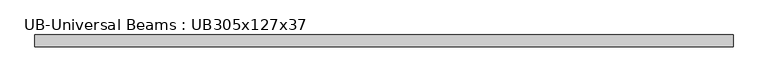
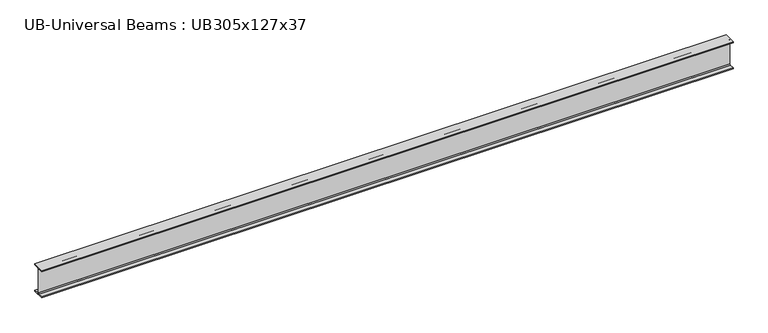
"""IFC4 building model written with IfcOpenShell, lengths in millimetres: beam geometry, UB-Universal Beams : UB305x127x37."""

import ifcopenshell
import ifcopenshell.guid

model = None  # the IFC model being written
_history = None  # IfcOwnerHistory: only IFC2X3 demands one
_inside = {}  # id of a spatial element -> (the spatial element, [elements in it])
_under = {}  # id of a project, library or spatial element -> (it, [spatial elements below it])
_declared = {}  # id of a project -> (the project, [libraries it declares])
_typed = {}  # id of a type object -> (the type object, [elements of that type])
_made_of = {}  # id of a material, layer set ... -> (it, [elements and type objects made of it])


def new_model(schema):
    """Start an empty IFC model of exactly this schema.

    Asked for "IFC4X3", IfcOpenShell would pick the latest addendum, in which some entities
    have other attributes; the version numbers below select the first issue.
    IFC2X3 requires an IfcOwnerHistory on every rooted entity: one is made here for all.
    """
    global model, _history
    if schema == "IFC4X3":
        model = ifcopenshell.file(schema_version=(4, 3, 0, 0))
    else:
        model = ifcopenshell.file(schema=schema)
    _inside.clear()
    _under.clear()
    _declared.clear()
    _typed.clear()
    _made_of.clear()
    _history = None
    if model.schema == "IFC2X3":
        org = make("IfcOrganization", Name="unknown")
        user = make(
            "IfcPersonAndOrganization",
            ThePerson=make("IfcPerson", FamilyName="unknown"),
            TheOrganization=org,
        )
        app = make(
            "IfcApplication",
            ApplicationDeveloper=org,
            Version="unknown",
            ApplicationFullName="unknown",
            ApplicationIdentifier="unknown",
        )
        _history = make(
            "IfcOwnerHistory",
            OwningUser=user,
            OwningApplication=app,
            ChangeAction="ADDED",
            CreationDate=0,
        )
    return model


def make(cls, **values):
    """One entity of the class cls with the attributes given. An attribute that is None is left unset."""
    return model.create_entity(
        cls, **{name: value for name, value in values.items() if value is not None}
    )


def rooted(cls, **values):
    """An entity with a GlobalId (a new one), such as an element, a storey or a relation."""
    return make(cls, GlobalId=ifcopenshell.guid.new(), OwnerHistory=_history, **values)


def si_unit(unit_type, name, prefix=None):
    """IfcSIUnit, for example si_unit("LENGTHUNIT", "METRE", prefix="MILLI")."""
    return make("IfcSIUnit", UnitType=unit_type, Prefix=prefix, Name=name)


def assignment(units):
    """IfcUnitAssignment: the units of a project."""
    return None if units is None else make("IfcUnitAssignment", Units=units)


def point(xyz):
    """IfcCartesianPoint."""
    return None if xyz is None else make("IfcCartesianPoint", Coordinates=xyz)


def direction(xyz):
    """IfcDirection."""
    return None if xyz is None else make("IfcDirection", DirectionRatios=xyz)


def frame(location, z_axis=None, x_axis=None):
    """IfcAxis2Placement3D, a coordinate frame: its origin and axes. An axis left out is left unset."""
    return make(
        "IfcAxis2Placement3D",
        Location=point(location),
        Axis=direction(z_axis),
        RefDirection=direction(x_axis),
    )


def frame_2d(location, x_axis=None):
    """IfcAxis2Placement2D, a coordinate frame in the plane: its origin and x axis."""
    return make(
        "IfcAxis2Placement2D", Location=point(location), RefDirection=direction(x_axis)
    )


def origin():
    """The frame at (0, 0, 0) with its axes left unset."""
    return frame((0.0, 0.0, 0.0))


def place(relative_to, where):
    """IfcLocalPlacement: puts the frame where relative to a parent placement (None: the world)."""
    return make(
        "IfcLocalPlacement", PlacementRelTo=relative_to, RelativePlacement=where
    )


def context(
    kind, dimensions, precision=None, world=None, true_north=None, identifier=None
):
    """IfcGeometricRepresentationContext, for example the 3D "Model" context."""
    return make(
        "IfcGeometricRepresentationContext",
        ContextIdentifier=identifier,
        ContextType=kind,
        CoordinateSpaceDimension=dimensions,
        Precision=precision,
        WorldCoordinateSystem=world,
        TrueNorth=true_north,
    )


def project(units=None, contexts=None):
    """IfcProject with its units and contexts."""
    return rooted(
        "IfcProject",
        Name="project",
        RepresentationContexts=contexts,
        UnitsInContext=assignment(units),
    )


def spatial(cls, under=None, at=None, **own):
    """A site, building, storey or space (cls), placed at a placement, below another one or the project."""
    s = rooted(cls, ObjectPlacement=at, **own)
    if under is not None:
        _under.setdefault(under.id(), (under, []))[1].append(s)
    return s


def polyline(points):
    """IfcPolyline through the points."""
    return make("IfcPolyline", Points=[point(p) for p in points])


def circle_curve(where, radius):
    """IfcCircle in the frame where."""
    return make("IfcCircle", Position=where, Radius=radius)


def trimmed(basis, trim1, trim2, sense, master):
    """IfcTrimmedCurve: the piece of a basis curve between two trims."""
    return make(
        "IfcTrimmedCurve",
        BasisCurve=basis,
        Trim1=trim1,
        Trim2=trim2,
        SenseAgreement=sense,
        MasterRepresentation=master,
    )


def segment(curve, same_sense, transition):
    """IfcCompositeCurveSegment."""
    return make(
        "IfcCompositeCurveSegment",
        Transition=transition,
        SameSense=same_sense,
        ParentCurve=curve,
    )


def composite_curve(segments, self_intersect=None):
    """IfcCompositeCurve: segments joined end to end."""
    return make("IfcCompositeCurve", Segments=segments, SelfIntersect=self_intersect)


def outline(outer, holes=None, kind="AREA"):
    """IfcArbitraryClosedProfileDef: a profile drawn as a closed curve; with holes, ...WithVoids."""
    if holes is None:
        return make("IfcArbitraryClosedProfileDef", ProfileType=kind, OuterCurve=outer)
    return make(
        "IfcArbitraryProfileDefWithVoids",
        ProfileType=kind,
        OuterCurve=outer,
        InnerCurves=holes,
    )


def extrude(swept, where, along, depth):
    """IfcExtrudedAreaSolid: the profile swept, set in the frame where, extruded along a direction by depth."""
    return make(
        "IfcExtrudedAreaSolid",
        SweptArea=swept,
        Position=where,
        ExtrudedDirection=direction(along),
        Depth=depth,
    )


def shape(context_of_items, identifier, shape_type, items):
    """IfcShapeRepresentation: the items that make up one representation, for example the "Body"."""
    return make(
        "IfcShapeRepresentation",
        ContextOfItems=context_of_items,
        RepresentationIdentifier=identifier,
        RepresentationType=shape_type,
        Items=items,
    )


def source(mapping_origin, context_of_items, identifier, shape_type, items):
    """IfcRepresentationMap: a shape defined once, which mapped items show again and again."""
    return make(
        "IfcRepresentationMap",
        MappingOrigin=mapping_origin,
        MappedRepresentation=shape(context_of_items, identifier, shape_type, items),
    )


def transform(
    local_origin,
    x_axis=None,
    y_axis=None,
    z_axis=None,
    scale=None,
    scale2=None,
    scale3=None,
    uniform=True,
):
    """IfcCartesianTransformationOperator3D, or its non-uniform kind. x_axis, y_axis, z_axis: its Axis1, 2, 3."""
    if uniform:
        return make(
            "IfcCartesianTransformationOperator3D",
            Axis1=direction(x_axis),
            Axis2=direction(y_axis),
            LocalOrigin=point(local_origin),
            Scale=scale,
            Axis3=direction(z_axis),
        )
    return make(
        "IfcCartesianTransformationOperator3DnonUniform",
        Axis1=direction(x_axis),
        Axis2=direction(y_axis),
        LocalOrigin=point(local_origin),
        Scale=scale,
        Axis3=direction(z_axis),
        Scale2=scale2,
        Scale3=scale3,
    )


def mapped(mapping_source, mapping_target):
    """IfcMappedItem: shows the shape of a source again, moved by a transform."""
    return make(
        "IfcMappedItem", MappingSource=mapping_source, MappingTarget=mapping_target
    )


def made_of(thing, what):
    """Note that an element or type object is made of a material, layer set ...; save() writes the relation."""
    if what is not None:
        _made_of.setdefault(what.id(), (what, []))[1].append(thing)
    return thing


def element(
    cls,
    number,
    at=None,
    inside=None,
    cuts=None,
    type_object=None,
    material=None,
    context=None,
    identifier="Body",
    shape_type=None,
    held_by="IfcProductDefinitionShape",
    body=None,
    shapes=None,
    **own,
):
    """One element of the class cls, such as IfcWall. Its Tag is "e" and its number.

    at: its placement. inside: the storey or other place that contains it. cuts: it is an
    opening in that element (IfcRelVoidsElement). A single representation is given by context,
    identifier, shape_type and body (its items); several are given by shapes. held_by: the class
    of the entity that holds the representations. save() writes the other relations.
    """
    e = rooted(cls, Tag="e%d" % number, ObjectPlacement=at, **own)
    if body is not None:
        shapes = [shape(context, identifier, shape_type, body)]
    if shapes is not None:
        e.Representation = make(held_by, Representations=shapes)
    if inside is not None:
        _inside.setdefault(inside.id(), (inside, []))[1].append(e)
    if cuts is not None:
        rooted(
            "IfcRelVoidsElement", RelatingBuildingElement=cuts, RelatedOpeningElement=e
        )
    if type_object is not None:
        _typed.setdefault(type_object.id(), (type_object, []))[1].append(e)
    return made_of(e, material)


def aggregate(whole, parts):
    """IfcRelAggregates: a whole, such as a stair, and the parts it consists of."""
    return rooted("IfcRelAggregates", RelatingObject=whole, RelatedObjects=parts)


def save(model, path):
    """Write the relations noted so far, then the file.

    IfcRelAggregates (storeys below a building ...), IfcRelContainedInSpatialStructure (elements
    in a storey), IfcRelDefinesByType, IfcRelAssociatesMaterial and IfcRelDeclares: one each for
    every whole, place, type object, material and project.
    """
    for whole, parts in _under.values():
        aggregate(whole, parts)
    for where, things in _inside.values():
        rooted(
            "IfcRelContainedInSpatialStructure",
            RelatedElements=things,
            RelatingStructure=where,
        )
    for kind, things in _typed.values():
        rooted("IfcRelDefinesByType", RelatedObjects=things, RelatingType=kind)
    for what, things in _made_of.values():
        rooted("IfcRelAssociatesMaterial", RelatedObjects=things, RelatingMaterial=what)
    for by, libraries in _declared.values():
        rooted("IfcRelDeclares", RelatingContext=by, RelatedDefinitions=libraries)
    model.write(path)


def ub_universal_beams_ub305x127x37_8d1efc97(model_context):
    return source(origin(), model_context, "Body", "SweptSolid", [
        extrude(outline(composite_curve([segment(polyline([(61.7, -141.5), (61.7, -152.2), (-61.7, -152.2), (-61.7, -141.5), (-12.45, -141.5)]), True, "CONTINUOUS"), segment(trimmed(circle_curve(frame_2d((-12.45, -132.6)), 8.9), [point((-12.45, -141.5))], [point((-3.55, -132.6))], True, "CARTESIAN"), True, "CONTINUOUS"), segment(polyline([(-3.55, -132.6), (-3.55, 132.6)]), True, "CONTINUOUS"), segment(trimmed(circle_curve(frame_2d((-12.45, 132.6)), 8.9), [point((-3.55, 132.6))], [point((-12.45, 141.5))], True, "CARTESIAN"), True, "CONTINUOUS"), segment(polyline([(-12.45, 141.5), (-61.7, 141.5), (-61.7, 152.2), (61.7, 152.2), (61.7, 141.5), (12.45, 141.5)]), True, "CONTINUOUS"), segment(trimmed(circle_curve(frame_2d((12.45, 132.6)), 8.9), [point((12.45, 141.5))], [point((3.55, 132.6))], True, "CARTESIAN"), True, "CONTINUOUS"), segment(polyline([(3.55, 132.6), (3.55, -132.6)]), True, "CONTINUOUS"), segment(trimmed(circle_curve(frame_2d((12.45, -132.6)), 8.9), [point((3.55, -132.6))], [point((12.45, -141.5))], True, "CARTESIAN"), True, "CONTINUOUS"), segment(polyline([(12.45, -141.5), (61.7, -141.5)]), True, "CONTINUOUS")], self_intersect=False)), frame((-3660.4, 0.0, 0.0), z_axis=(1.0, 0.0, 0.0), x_axis=(0.0, 1.0, 0.0)), (0.0, 0.0, 1.0), 7297.7),
    ])


if __name__ == "__main__":
    model = new_model("IFC4")
    model_context = context("Model", 3, world=origin())
    ifc_project = project(units=[si_unit("LENGTHUNIT", "METRE", prefix="MILLI")], contexts=[model_context])
    site = spatial("IfcSite", under=ifc_project)
    building = spatial("IfcBuilding", under=site)
    placement = place(None, origin())
    ub_universal_beams_ub305x127x37_shape = ub_universal_beams_ub305x127x37_8d1efc97(model_context)
    element("IfcBeam", 1, ObjectType="UB-Universal Beams : UB305x127x37", at=placement, inside=building, context=model_context, shape_type="MappedRepresentation", body=[
        mapped(ub_universal_beams_ub305x127x37_shape, transform((0.0, 0.0, 0.0), x_axis=(1.0, 0.0, 0.0), y_axis=(0.0, 1.0, 0.0), z_axis=(0.0, 0.0, 1.0))),
    ])
    save(model, "model.ifc")
